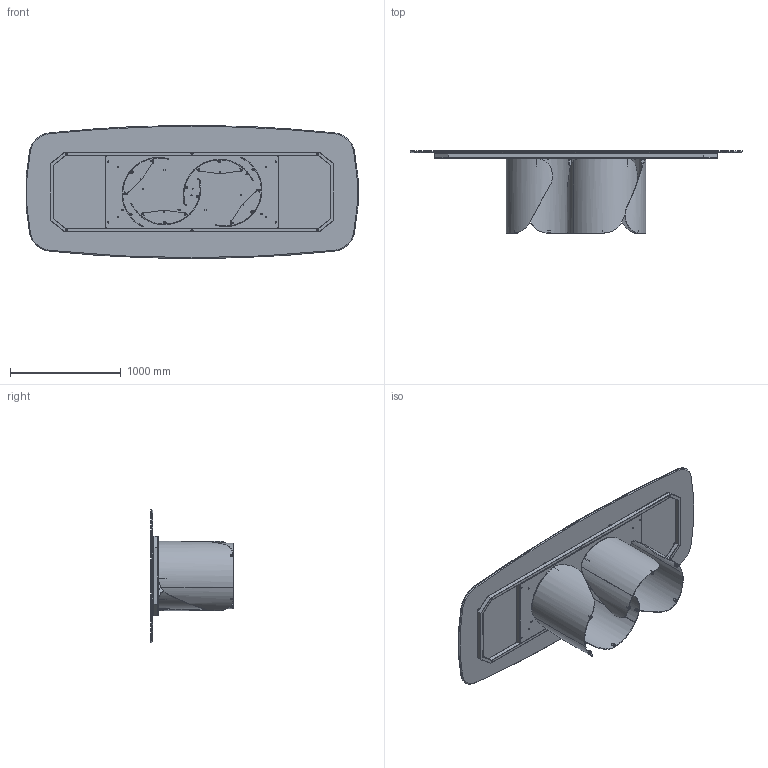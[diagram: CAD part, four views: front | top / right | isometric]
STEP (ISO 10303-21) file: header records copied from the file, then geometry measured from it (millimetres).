
FILE_DESCRIPTION (( 'STEP AP203' ), '1' );
FILE_NAME ('ON44C.STEP', '2024-08-06T13:43:45', ( '' ), ( '' ), 'SwSTEP 2.0', 'SolidWorks 2022', '' );
FILE_SCHEMA (( 'CONFIG_CONTROL_DESIGN' ));
Length unit declared in the file: millimetre
Products named in the file (15): COLLO TELAIO UNIVERSALE TTAV07 CON FERRAMENTA_MTG TOP CRISTALLO VERNICIATO-CERAMICA; OND000000-03-ONDA BASE GREZZA; TTAV07_01-04-STRUTTURA TAVOLI PLAI ONDA NOA 300; TTAV07_02-01-VASSOIO TELAIO  PLAI ONDA NOA 300; 434070-00-PIEDINO TPV GOMMA NERO D. 30x8max18_filo estetico; OND000000_03-00-LAMIERA CURVATA PRINCIPALE_OND00000X-00-ONDA BASE GREZZA PROTOTIPO; ON44C; K4XCMXX-00-Piani Sagomati in ceramica_3000 x 1200; OND000000_01-00-PIASTRA SUPERIORE BASE ONDA; PIEDINO PER ONDA; rondella M8_8X24; M8xXXmm_M8x20mm; OND000000_02-00-CILINDRO DI FISSAGGIO Ø25X17 M8; COLLO BASE ONDA SINGOLA CON FERRAMENTA; TTAV07-04-TELAIO X TAVOLI PLAI ONDA NOA 300
Assembly tree (56 placements, depth 4):
  ON44C
    COLLO TELAIO UNIVERSALE TTAV07 CON FERRAMENTA_MTG TOP CRISTALLO VERNICIATO-CERAMICA
      TTAV07-04-TELAIO X TAVOLI PLAI ONDA NOA 300
        TTAV07_01-04-STRUTTURA TAVOLI PLAI ONDA NOA 300
        TTAV07_02-01-VASSOIO TELAIO  PLAI ONDA NOA 300
      434070-00-PIEDINO TPV GOMMA NERO D. 30x8max18_filo estetico  x8
    COLLO BASE ONDA SINGOLA CON FERRAMENTA  x4
      OND000000-03-ONDA BASE GREZZA
        OND000000_03-00-LAMIERA CURVATA PRINCIPALE_OND00000X-00-ONDA BASE GREZZA PROTOTIPO
        OND000000_01-00-PIASTRA SUPERIORE BASE ONDA
        OND000000_02-00-CILINDRO DI FISSAGGIO Ø25X17 M8  x2
      PIEDINO PER ONDA
    rondella M8_8X24  x16
    M8xXXmm_M8x20mm  x16
    K4XCMXX-00-Piani Sagomati in ceramica_3000 x 1200
Bounding box: 2991.72 x 742 x 1200 mm (x, y, z)
Volume: 71080108.2 mm3; surface area: 22117382.7 mm2
Topology: 84 solids, 84 shells, 1941 faces, 4433 edges, 2702 vertices
Faces by surface type: plane 718, cylinder 686, torus 256, cone 185, bspline 80, sphere 16
Entity records: 22588 total; most frequent: CARTESIAN_POINT 5031, DIRECTION 3231, ORIENTED_EDGE 2988, EDGE_CURVE 1494, AXIS2_PLACEMENT_3D 1218, VERTEX_POINT 944, LINE 795, VECTOR 795
